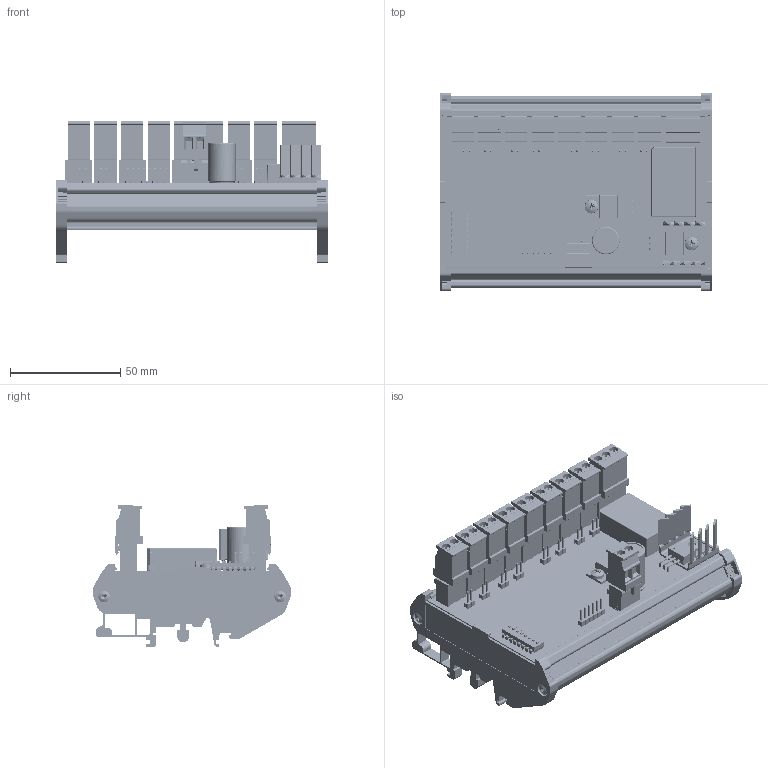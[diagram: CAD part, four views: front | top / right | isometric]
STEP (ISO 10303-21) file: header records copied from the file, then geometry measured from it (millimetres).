
FILE_DESCRIPTION(/* description */ (''),/* implementation_level */ '2;1');
FILE_NAME(/* name */ 'C:/Temp/STEP/AO-8_V300.step',/* time_stamp */ '2020-04-03T13:35:06+03:00',/* author */ (''),/* organization */ (''),/* preprocessor_version */ 'ST-DEVELOPER v18',/* originating_system */ 'Autodesk Translation Framework v8.12.0.6',/* authorisation */ '');
FILE_SCHEMA (('AUTOMOTIVE_DESIGN { 1 0 10303 214 3 1 1 }'));
Products named in the file (1): AO-8_V300
Bounding box: 123 x 89.6 x 64.02 mm (x, y, z)
Volume: 102614.8 mm3; surface area: 108651.6 mm2
Topology: 90 solids, 90 shells, 6846 faces, 18202 edges, 11915 vertices
Faces by surface type: plane 5136, cylinder 1417, bspline 136, sphere 90, cone 45, torus 22
Full cylindrical faces by diameter (mm): 0.434 x10, 0.457 x10, 0.5 x29, 0.6 x2, 0.8 x30, 1 x32, 1.4 x63, 1.71 x36, 2.404 x4, 2.8 x22, 3 x4, 3.1 x4, 3.2 x2, 3.78 x2, 3.783 x21, 4 x22, 5.15 x4, 6 x4, 10.5 x2
Entity records: 230783 total; most frequent: CARTESIAN_POINT 50632, ORIENTED_EDGE 36316, DIRECTION 35301, EDGE_CURVE 18158, LINE 13649, VECTOR 13649, VERTEX_POINT 11911, AXIS2_PLACEMENT_3D 10826
